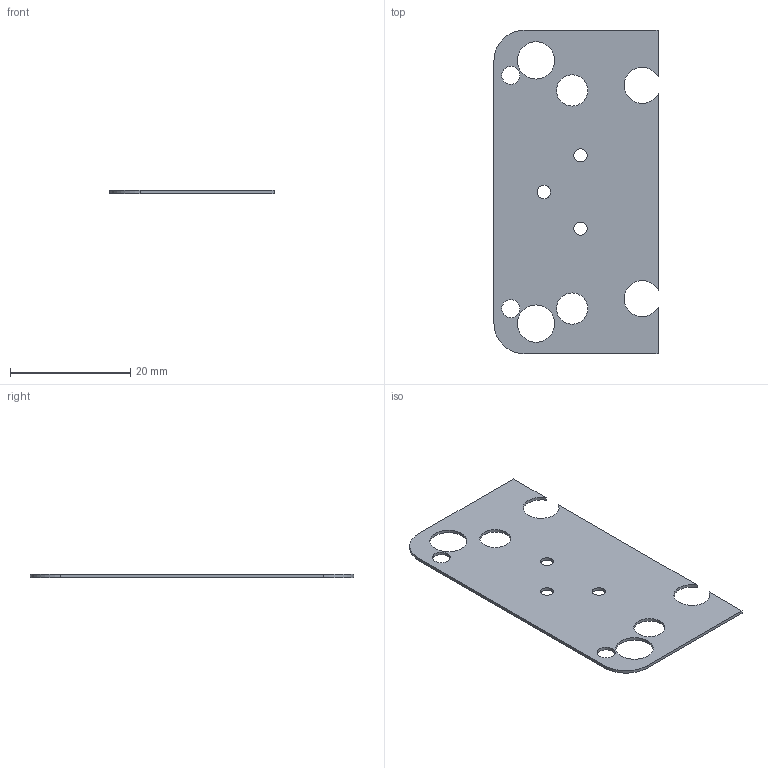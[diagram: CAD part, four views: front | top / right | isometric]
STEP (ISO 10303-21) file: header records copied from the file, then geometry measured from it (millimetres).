
FILE_DESCRIPTION (( 'STEP AP203' ), '1' );
FILE_NAME ('墊塊左.step', '2026-06-05T03:32:57', ( '' ), ( '' ), 'SwSTEP 2.0', 'SolidWorks 2024', '' );
FILE_SCHEMA (( 'CONFIG_CONTROL_DESIGN' ));
Length unit declared in the file: millimetre
Products named in the file (1): 墊塊左
Bounding box: 27.3 x 53.8 x 0.5 mm (x, y, z)
Volume: 637.2 mm3; surface area: 2696.5 mm2
Topology: 1 solids, 1 shells, 30 faces, 84 edges, 56 vertices
Faces by surface type: cylinder 22, plane 8
Entity records: 1105 total; most frequent: DIRECTION 190, CARTESIAN_POINT 171, ORIENTED_EDGE 168, EDGE_CURVE 84, AXIS2_PLACEMENT_3D 75, VERTEX_POINT 56, EDGE_LOOP 48, CIRCLE 44
